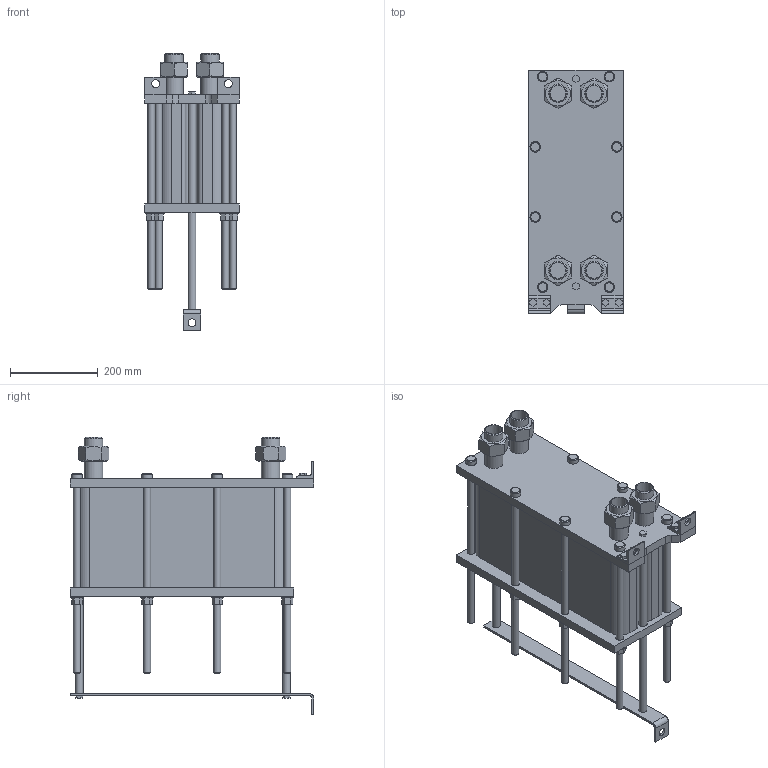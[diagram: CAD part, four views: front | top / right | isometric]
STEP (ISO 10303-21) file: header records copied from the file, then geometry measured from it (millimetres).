
FILE_DESCRIPTION(/* description */ (''),/* implementation_level */ '2;1');
FILE_NAME(/* name */ 'C:\Users\zhuro\Desktop\ENCO\TO\ЭН-004\ЭН-0,5-004-74-1.stp',/* time_stamp */ '2022-06-06T10:49:33+03:00',/* author */ ('zhuro'),/* organization */ (''),/* preprocessor_version */ 'ST-DEVELOPER v18.1',/* originating_system */ 'Autodesk Inventor 2022',/* authorisation */ '');
FILE_SCHEMA (('AUTOMOTIVE_DESIGN { 1 0 10303 214 3 1 1 }'));
Length unit declared in the file: millimetre
Products named in the file (1): ЭН-0,5-004-74-1
Bounding box: 216 x 555 x 632.2 mm (x, y, z)
Volume: 22867377.9 mm3; surface area: 1455533.8 mm2
Topology: 40 solids, 40 shells, 403 faces, 865 edges, 574 vertices
Faces by surface type: plane 272, cylinder 103, cone 28
Full cylindrical faces by diameter (mm): 10 x4, 16 x16, 18 x29, 20 x2, 24 x8, 28 x8, 36.3 x5, 42.3 x9
Entity records: 11137 total; most frequent: CARTESIAN_POINT 1939, DIRECTION 1879, ORIENTED_EDGE 1730, EDGE_CURVE 865, AXIS2_PLACEMENT_3D 658, VERTEX_POINT 574, LINE 563, VECTOR 563
